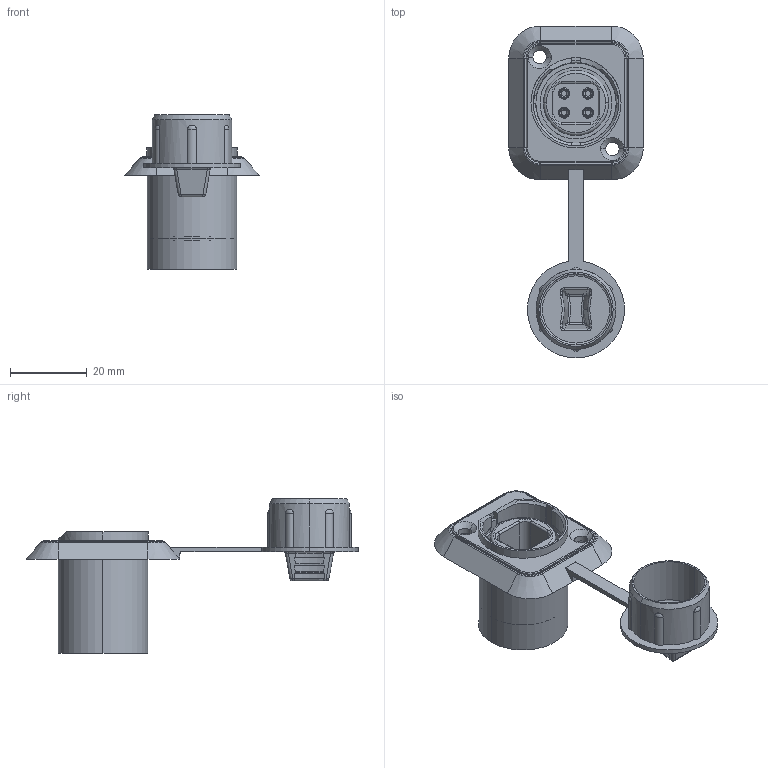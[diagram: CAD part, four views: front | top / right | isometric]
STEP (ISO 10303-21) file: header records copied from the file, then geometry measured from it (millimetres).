
FILE_DESCRIPTION (( 'STEP AP214' ), '1' );
FILE_NAME ('QSEAL-RMN-04CH-XX -R2.STEP', '2025-04-04T00:21:11', ( '' ), ( '' ), 'SwSTEP 2.0', 'SolidWorks 2024', '' );
FILE_SCHEMA (( 'AUTOMOTIVE_DESIGN' ));
Length unit declared in the file: inch
Products named in the file (1): QSEAL-RMN-04CH-XX -R2
Bounding box: 35.18 x 86.8 x 40.39 mm (x, y, z)
Volume: 10319 mm3; surface area: 15328.5 mm2
Topology: 3 solids, 3 shells, 624 faces, 1564 edges, 982 vertices
Faces by surface type: plane 254, cylinder 193, torus 71, cone 64, bspline 24, sphere 18
Entity records: 19397 total; most frequent: CARTESIAN_POINT 4345, DIRECTION 3195, ORIENTED_EDGE 3128, EDGE_CURVE 1564, AXIS2_PLACEMENT_3D 1169, VERTEX_POINT 982, VECTOR 857, LINE 857
